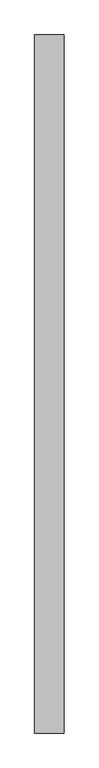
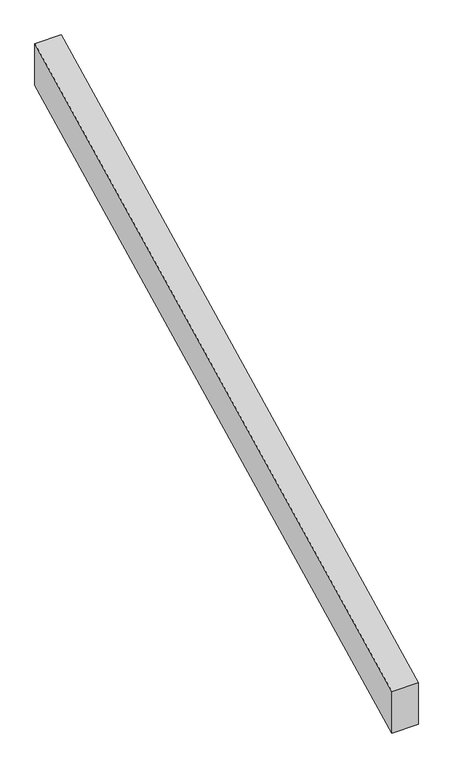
"""IFC4 building model written with IfcOpenShell, lengths in millimetres: railing geometry, Ограждение 1."""

from ifc_helpers import new_model, si_unit, frame, origin, place, context, project, spatial, polyline, outline, extrude, source, transform, mapped, element, save


def railing_55e674e1(model_context):
    return source(origin(), model_context, "Body", "SweptSolid", [
        extrude(outline(polyline([(8442.0220346, 164.8058101), (8442.0220346, 250.0), (9642.0220346, 850.0), (9642.0220346, 764.8058101), (8442.0220346, 164.8058101)])), frame((-250.8, 0.0, 0.0), z_axis=(1.0, 0.0, 0.0), x_axis=(0.0, 1.0, 0.0)), (0.0, 0.0, 1.0), 50.8),
    ])


if __name__ == "__main__":
    model = new_model("IFC4")
    model_context = context("Model", 3, world=origin())
    ifc_project = project(units=[si_unit("LENGTHUNIT", "METRE", prefix="MILLI")], contexts=[model_context])
    site = spatial("IfcSite", under=ifc_project)
    building = spatial("IfcBuilding", under=site)
    placement = place(None, origin())
    railing_shape = railing_55e674e1(model_context)
    element("IfcRailing", 1, ObjectType="Ограждение 1", at=placement, inside=building, context=model_context, shape_type="MappedRepresentation", body=[
        mapped(railing_shape, transform((0.0, 0.0, 0.0), x_axis=(1.0, 0.0, 0.0), y_axis=(0.0, 1.0, 0.0), z_axis=(0.0, 0.0, 1.0))),
    ])
    save(model, "model.ifc")
